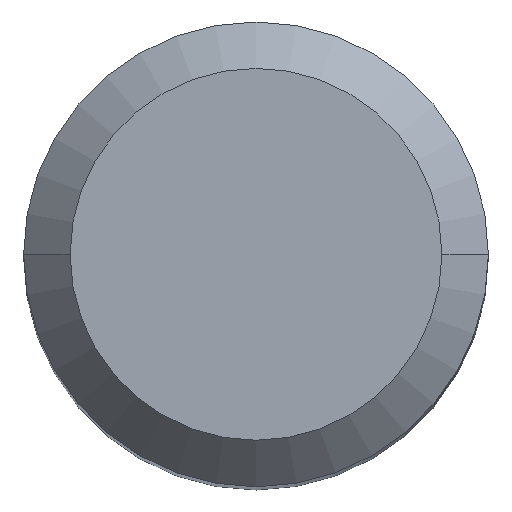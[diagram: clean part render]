
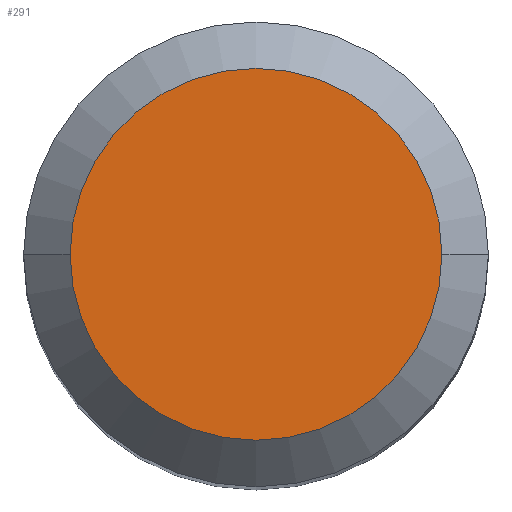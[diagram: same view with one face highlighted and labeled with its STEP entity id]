
A CAD part, top view. The second image highlights one B-rep face of the part: STEP entity #291.
In plain terms, the highlighted planar face has unit normal (0, 0, 1).
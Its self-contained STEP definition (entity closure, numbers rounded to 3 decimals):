
#1 = CARTESIAN_POINT ( 'NONE',  ( 4., 0., 0. ) ) ;
#17 = CARTESIAN_POINT ( 'NONE',  ( -4., 0., 0. ) ) ;
#28 = AXIS2_PLACEMENT_3D ( 'NONE', #221, #295, #255 ) ;
#29 = DIRECTION ( 'NONE',  ( 0., 0., -1. ) ) ;
#30 = VERTEX_POINT ( 'NONE', #17 ) ;
#43 = EDGE_CURVE ( 'NONE', #30, #199, #379, .T. ) ;
#100 = CIRCLE ( 'NONE', #387, 4. ) ;
#101 = PLANE ( 'NONE',  #28 ) ;
#134 = CARTESIAN_POINT ( 'NONE',  ( 0., 0., 0. ) ) ;
#135 = EDGE_LOOP ( 'NONE', ( #219, #397 ) ) ;
#140 = FACE_OUTER_BOUND ( 'NONE', #135, .T. ) ;
#165 = DIRECTION ( 'NONE',  ( -1., 0., 0. ) ) ;
#199 = VERTEX_POINT ( 'NONE', #1 ) ;
#219 = ORIENTED_EDGE ( 'NONE', *, *, #43, .F. ) ;
#221 = CARTESIAN_POINT ( 'NONE',  ( 0., 4., 0. ) ) ;
#255 = DIRECTION ( 'NONE',  ( 1., 0., 0. ) ) ;
#266 = AXIS2_PLACEMENT_3D ( 'NONE', #134, #29, #165 ) ;
#272 = DIRECTION ( 'NONE',  ( -1., 0., 0. ) ) ;
#291 = ADVANCED_FACE ( 'NONE', ( #140 ), #101, .T. ) ;
#295 = DIRECTION ( 'NONE',  ( 0., 0., 1. ) ) ;
#311 = DIRECTION ( 'NONE',  ( 0., 0., -1. ) ) ;
#379 = CIRCLE ( 'NONE', #266, 4. ) ;
#387 = AXIS2_PLACEMENT_3D ( 'NONE', #431, #311, #272 ) ;
#397 = ORIENTED_EDGE ( 'NONE', *, *, #448, .F. ) ;
#431 = CARTESIAN_POINT ( 'NONE',  ( 0., 0., 0. ) ) ;
#448 = EDGE_CURVE ( 'NONE', #199, #30, #100, .T. ) ;
